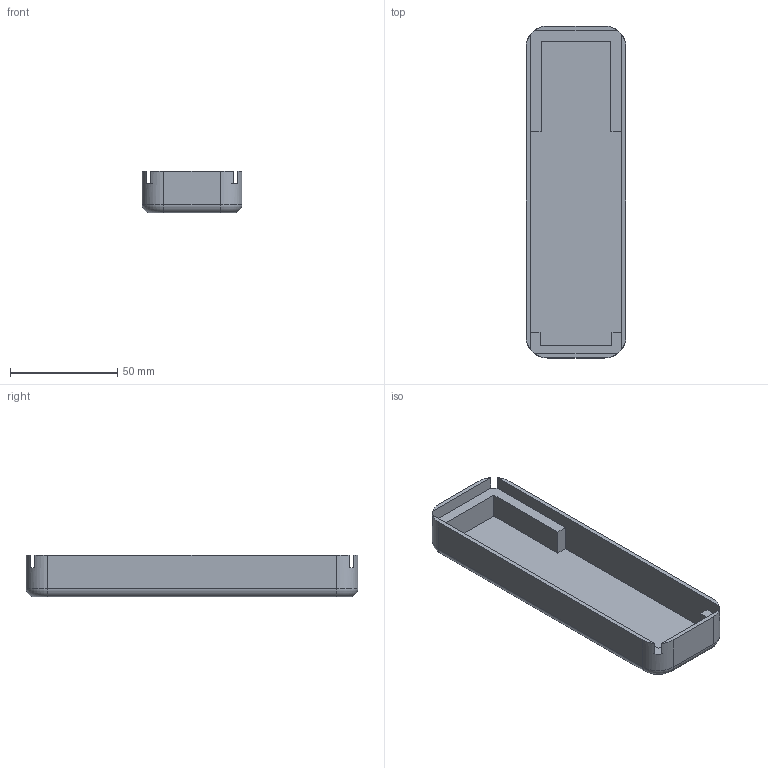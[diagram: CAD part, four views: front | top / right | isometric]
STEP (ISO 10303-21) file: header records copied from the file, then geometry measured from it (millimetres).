
FILE_DESCRIPTION(/* description */ (''),/* implementation_level */ '2;1');
FILE_NAME(/* name */ 'bottom.step',/* time_stamp */ '2026-10-11T13:33:18+02:00',/* author */ (''),/* organization */ (''),/* preprocessor_version */ 'ST-DEVELOPER v20.2',/* originating_system */ 'Autodesk Translation Framework v15.15.0.0',/* authorisation */ '');
FILE_SCHEMA (('AUTOMOTIVE_DESIGN { 1 0 10303 214 3 1 1 }'));
Length unit declared in the file: millimetre
Products named in the file (1): 2026-08-16-10-17-13-464
Bounding box: 46.5 x 154.5 x 19.5 mm (x, y, z)
Volume: 32305.8 mm3; surface area: 27601.1 mm2
Topology: 1 solids, 1 shells, 38 faces, 100 edges, 64 vertices
Faces by surface type: plane 26, cylinder 8, torus 4
Entity records: 1201 total; most frequent: DIRECTION 206, CARTESIAN_POINT 203, ORIENTED_EDGE 200, EDGE_CURVE 100, LINE 72, VECTOR 72, AXIS2_PLACEMENT_3D 67, VERTEX_POINT 64
